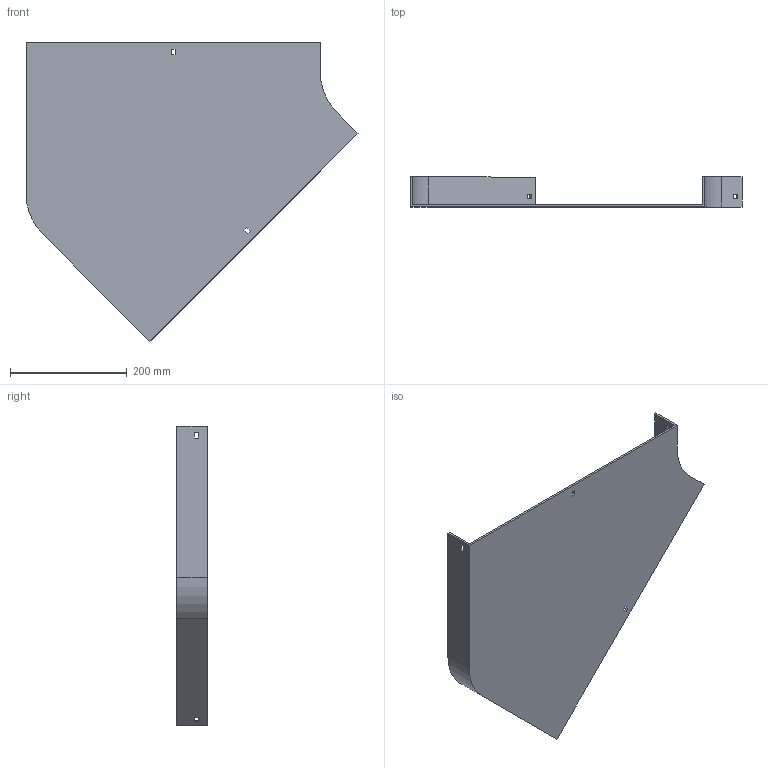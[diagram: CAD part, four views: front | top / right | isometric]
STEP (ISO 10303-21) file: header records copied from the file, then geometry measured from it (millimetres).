
FILE_DESCRIPTION (( 'STEP AP214' ), '1' );
FILE_NAME ('11B1B500.step', '2025-02-21T09:37:49', ( '' ), ( '' ), 'SwSTEP 2.0', 'SolidWorks 2023', '' );
FILE_SCHEMA (( 'AUTOMOTIVE_DESIGN' ));
Length unit declared in the file: millimetre
Products named in the file (1): 11B1B500
Bounding box: 568.64 x 52 x 512.45 mm (x, y, z)
Volume: 820893.6 mm3; surface area: 476693.2 mm2
Topology: 1 solids, 1 shells, 42 faces, 120 edges, 80 vertices
Faces by surface type: plane 38, cylinder 4
Entity records: 1399 total; most frequent: CARTESIAN_POINT 243, ORIENTED_EDGE 240, DIRECTION 214, EDGE_CURVE 120, LINE 112, VECTOR 112, VERTEX_POINT 80, EDGE_LOOP 54
